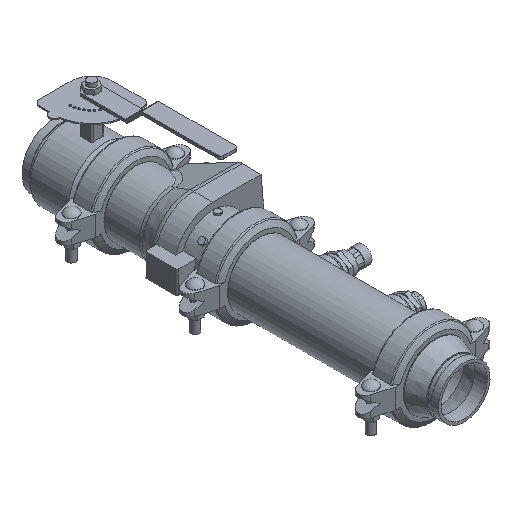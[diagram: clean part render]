
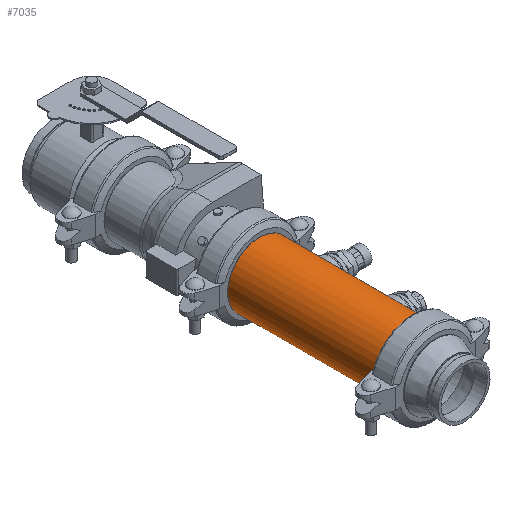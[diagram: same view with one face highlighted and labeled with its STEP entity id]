
A CAD part, isometric view. The second image highlights one B-rep face of the part: STEP entity #7035.
In plain terms, the highlighted cylindrical face has radius 70.65 mm (diameter 141.3 mm), a full revolution.
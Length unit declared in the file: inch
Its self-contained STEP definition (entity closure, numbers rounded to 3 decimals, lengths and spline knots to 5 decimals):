
#174=LINE('',#10755,#702);
#702=VECTOR('',#8572,2.7815);
#1228=CYLINDRICAL_SURFACE('',#7654,2.7815);
#1457=FACE_OUTER_BOUND('',#1855,.T.);
#1855=EDGE_LOOP('',(#4484,#4485,#4486,#4487,#4488,#4489));
#2336=CIRCLE('',#7652,2.7815);
#2337=CIRCLE('',#7653,2.7815);
#2338=CIRCLE('',#7655,2.7815);
#2339=CIRCLE('',#7656,2.7815);
#2744=VERTEX_POINT('',#10746);
#2745=VERTEX_POINT('',#10747);
#2746=VERTEX_POINT('',#10751);
#2747=VERTEX_POINT('',#10752);
#3431=EDGE_CURVE('',#2744,#2745,#2336,.T.);
#3432=EDGE_CURVE('',#2745,#2744,#2337,.T.);
#3433=EDGE_CURVE('',#2746,#2747,#2338,.T.);
#3434=EDGE_CURVE('',#2747,#2746,#2339,.T.);
#3435=EDGE_CURVE('',#2747,#2745,#174,.T.);
#4484=ORIENTED_EDGE('',*,*,#3433,.F.);
#4485=ORIENTED_EDGE('',*,*,#3434,.F.);
#4486=ORIENTED_EDGE('',*,*,#3435,.T.);
#4487=ORIENTED_EDGE('',*,*,#3432,.T.);
#4488=ORIENTED_EDGE('',*,*,#3431,.T.);
#4489=ORIENTED_EDGE('',*,*,#3435,.F.);
#7035=ADVANCED_FACE('',(#1457),#1228,.T.);
#7652=AXIS2_PLACEMENT_3D('',#10748,#8562,#8563);
#7653=AXIS2_PLACEMENT_3D('',#10749,#8564,#8565);
#7654=AXIS2_PLACEMENT_3D('',#10750,#8566,#8567);
#7655=AXIS2_PLACEMENT_3D('',#10753,#8568,#8569);
#7656=AXIS2_PLACEMENT_3D('',#10754,#8570,#8571);
#8562=DIRECTION('center_axis',(1.,0.,0.));
#8563=DIRECTION('ref_axis',(0.,0.,-1.));
#8564=DIRECTION('center_axis',(1.,0.,0.));
#8565=DIRECTION('ref_axis',(0.,0.,-1.));
#8566=DIRECTION('center_axis',(1.,0.,0.));
#8567=DIRECTION('ref_axis',(0.,1.,0.));
#8568=DIRECTION('center_axis',(1.,0.,0.));
#8569=DIRECTION('ref_axis',(0.,0.,-1.));
#8570=DIRECTION('center_axis',(1.,0.,0.));
#8571=DIRECTION('ref_axis',(0.,0.,-1.));
#8572=DIRECTION('',(-1.,0.,0.));
#10746=CARTESIAN_POINT('',(-6.546,2.7815,0.));
#10747=CARTESIAN_POINT('',(-6.546,-2.7815,0.));
#10748=CARTESIAN_POINT('Origin',(-6.546,0.,0.));
#10749=CARTESIAN_POINT('Origin',(-6.546,0.,0.));
#10750=CARTESIAN_POINT('Origin',(0.,0.,0.));
#10751=CARTESIAN_POINT('',(6.546,2.7815,0.));
#10752=CARTESIAN_POINT('',(6.546,-2.7815,0.));
#10753=CARTESIAN_POINT('Origin',(6.546,0.,0.));
#10754=CARTESIAN_POINT('Origin',(6.546,0.,0.));
#10755=CARTESIAN_POINT('',(0.,-2.7815,0.));
